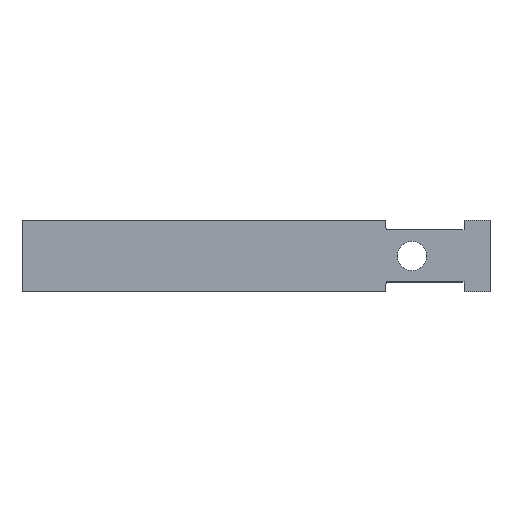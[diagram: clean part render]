
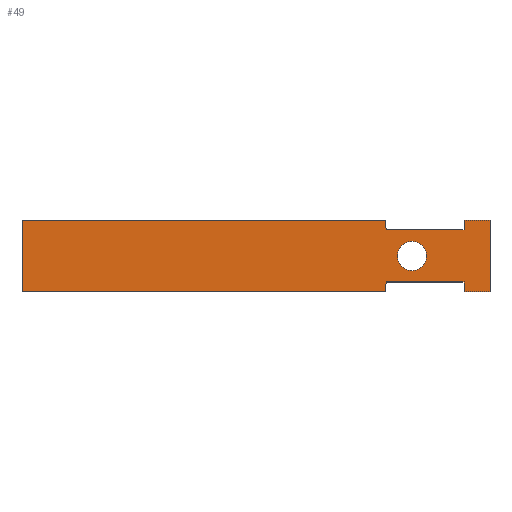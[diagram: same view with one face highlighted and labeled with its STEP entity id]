
A CAD part, top view. The second image highlights one B-rep face of the part: STEP entity #49.
In plain terms, the highlighted planar face has unit normal (0, 0, 1).
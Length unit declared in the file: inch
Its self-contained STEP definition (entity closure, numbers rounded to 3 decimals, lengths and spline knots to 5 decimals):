
#49=ADVANCED_FACE('',(#106,#107),#108,.T.);
#106=FACE_BOUND('',#177,.T.);
#107=FACE_OUTER_BOUND('',#178,.T.);
#108=PLANE('',#179);
#177=EDGE_LOOP('',(#268,#269,#270,#271));
#178=EDGE_LOOP('',(#272,#273,#274,#275,#276,#277,#278,#279,#280,#281,#282,#283));
#179=AXIS2_PLACEMENT_3D('',#284,#285,#286);
#268=ORIENTED_EDGE('',*,*,#419,.F.);
#269=ORIENTED_EDGE('',*,*,#420,.F.);
#270=ORIENTED_EDGE('',*,*,#421,.F.);
#271=ORIENTED_EDGE('',*,*,#404,.F.);
#272=ORIENTED_EDGE('',*,*,#422,.F.);
#273=ORIENTED_EDGE('',*,*,#423,.F.);
#274=ORIENTED_EDGE('',*,*,#414,.F.);
#275=ORIENTED_EDGE('',*,*,#424,.F.);
#276=ORIENTED_EDGE('',*,*,#425,.F.);
#277=ORIENTED_EDGE('',*,*,#426,.F.);
#278=ORIENTED_EDGE('',*,*,#427,.F.);
#279=ORIENTED_EDGE('',*,*,#409,.F.);
#280=ORIENTED_EDGE('',*,*,#428,.F.);
#281=ORIENTED_EDGE('',*,*,#429,.F.);
#282=ORIENTED_EDGE('',*,*,#430,.F.);
#283=ORIENTED_EDGE('',*,*,#431,.F.);
#284=CARTESIAN_POINT('',(4.61335,0.68751,0.105));
#285=DIRECTION('',(0.0,0.0,1.0));
#286=DIRECTION('',(1.0,0.0,0.0));
#404=EDGE_CURVE('',#471,#472,#473,.T.);
#409=EDGE_CURVE('',#480,#481,#482,.T.);
#414=EDGE_CURVE('',#489,#490,#491,.T.);
#419=EDGE_CURVE('',#498,#471,#499,.T.);
#420=EDGE_CURVE('',#500,#498,#501,.T.);
#421=EDGE_CURVE('',#472,#500,#502,.T.);
#422=EDGE_CURVE('',#503,#504,#505,.T.);
#423=EDGE_CURVE('',#490,#503,#506,.T.);
#424=EDGE_CURVE('',#507,#489,#508,.T.);
#425=EDGE_CURVE('',#509,#507,#510,.T.);
#426=EDGE_CURVE('',#511,#509,#512,.T.);
#427=EDGE_CURVE('',#481,#511,#513,.T.);
#428=EDGE_CURVE('',#514,#480,#515,.T.);
#429=EDGE_CURVE('',#516,#514,#517,.T.);
#430=EDGE_CURVE('',#518,#516,#519,.T.);
#431=EDGE_CURVE('',#504,#518,#520,.T.);
#471=VERTEX_POINT('',#570);
#472=VERTEX_POINT('',#571);
#473=B_SPLINE_CURVE_WITH_KNOTS('',3,(#572,#573,#574,#575),.UNSPECIFIED.,.F.,.F.,(4,4),(-1.0,-0.0),.UNSPECIFIED.);
#480=VERTEX_POINT('',#587);
#481=VERTEX_POINT('',#588);
#482=LINE('',#589,#590);
#489=VERTEX_POINT('',#600);
#490=VERTEX_POINT('',#601);
#491=LINE('',#602,#603);
#498=VERTEX_POINT('',#613);
#499=B_SPLINE_CURVE_WITH_KNOTS('',3,(#614,#615,#616,#617),.UNSPECIFIED.,.F.,.F.,(4,4),(-1.0,-0.0),.UNSPECIFIED.);
#500=VERTEX_POINT('',#618);
#501=B_SPLINE_CURVE_WITH_KNOTS('',3,(#619,#620,#621,#622),.UNSPECIFIED.,.F.,.F.,(4,4),(-1.0,-0.0),.UNSPECIFIED.);
#502=B_SPLINE_CURVE_WITH_KNOTS('',3,(#623,#624,#625,#626),.UNSPECIFIED.,.F.,.F.,(4,4),(-1.0,-0.0),.UNSPECIFIED.);
#503=VERTEX_POINT('',#627);
#504=VERTEX_POINT('',#628);
#505=LINE('',#629,#630);
#506=LINE('',#631,#632);
#507=VERTEX_POINT('',#633);
#508=LINE('',#634,#635);
#509=VERTEX_POINT('',#636);
#510=LINE('',#637,#638);
#511=VERTEX_POINT('',#639);
#512=LINE('',#640,#641);
#513=LINE('',#642,#643);
#514=VERTEX_POINT('',#644);
#515=LINE('',#645,#646);
#516=VERTEX_POINT('',#647);
#517=LINE('',#648,#649);
#518=VERTEX_POINT('',#650);
#519=LINE('',#651,#652);
#520=LINE('',#653,#654);
#570=CARTESIAN_POINT('',(7.21863,0.68751,0.105));
#571=CARTESIAN_POINT('',(7.49988,0.40626,0.105));
#572=CARTESIAN_POINT('',(7.21863,0.68751,0.105));
#573=CARTESIAN_POINT('',(7.21863,0.53219,0.105));
#574=CARTESIAN_POINT('',(7.34455,0.40626,0.105));
#575=CARTESIAN_POINT('',(7.49988,0.40626,0.105));
#587=CARTESIAN_POINT('',(8.50003,1.18751,0.105));
#588=CARTESIAN_POINT('',(8.5,1.37501,0.105));
#589=CARTESIAN_POINT('',(8.50003,1.18751,0.105));
#590=VECTOR('',#734,1.0);
#600=CARTESIAN_POINT('',(8.50003,0.1875,0.105));
#601=CARTESIAN_POINT('',(7.00003,0.1875,0.105));
#602=CARTESIAN_POINT('',(8.50003,0.1875,0.105));
#603=VECTOR('',#738,1.0);
#613=CARTESIAN_POINT('',(7.49988,0.96876,0.105));
#614=CARTESIAN_POINT('',(7.49988,0.96876,0.105));
#615=CARTESIAN_POINT('',(7.34455,0.96876,0.105));
#616=CARTESIAN_POINT('',(7.21863,0.84284,0.105));
#617=CARTESIAN_POINT('',(7.21863,0.68751,0.105));
#618=CARTESIAN_POINT('',(7.78113,0.68751,0.105));
#619=CARTESIAN_POINT('',(7.78113,0.68751,0.105));
#620=CARTESIAN_POINT('',(7.78113,0.84284,0.105));
#621=CARTESIAN_POINT('',(7.65521,0.96876,0.105));
#622=CARTESIAN_POINT('',(7.49988,0.96876,0.105));
#623=CARTESIAN_POINT('',(7.49988,0.40626,0.105));
#624=CARTESIAN_POINT('',(7.65521,0.40626,0.105));
#625=CARTESIAN_POINT('',(7.78113,0.53219,0.105));
#626=CARTESIAN_POINT('',(7.78113,0.68751,0.105));
#627=CARTESIAN_POINT('',(6.99988,0.0,0.105));
#628=CARTESIAN_POINT('',(0.0,0.0,0.105));
#629=CARTESIAN_POINT('',(6.99988,0.0,0.105));
#630=VECTOR('',#742,1.0);
#631=CARTESIAN_POINT('',(7.00003,0.1875,0.105));
#632=VECTOR('',#743,1.0);
#633=CARTESIAN_POINT('',(8.5,0.0,0.105));
#634=CARTESIAN_POINT('',(8.5,0.0,0.105));
#635=VECTOR('',#744,1.0);
#636=CARTESIAN_POINT('',(9.,0.0,0.105));
#637=CARTESIAN_POINT('',(9.,0.0,0.105));
#638=VECTOR('',#745,1.0);
#639=CARTESIAN_POINT('',(9.,1.37501,0.105));
#640=CARTESIAN_POINT('',(9.,1.37501,0.105));
#641=VECTOR('',#746,1.0);
#642=CARTESIAN_POINT('',(8.5,1.37501,0.105));
#643=VECTOR('',#747,1.0);
#644=CARTESIAN_POINT('',(7.00003,1.18751,0.105));
#645=CARTESIAN_POINT('',(7.00003,1.18751,0.105));
#646=VECTOR('',#748,1.0);
#647=CARTESIAN_POINT('',(6.99988,1.37501,0.105));
#648=CARTESIAN_POINT('',(6.99988,1.37501,0.105));
#649=VECTOR('',#749,1.0);
#650=CARTESIAN_POINT('',(0.0,1.37501,0.105));
#651=CARTESIAN_POINT('',(0.0,1.37501,0.105));
#652=VECTOR('',#750,1.0);
#653=CARTESIAN_POINT('',(0.0,0.0,0.105));
#654=VECTOR('',#751,1.0);
#734=DIRECTION('',(0.,1.,0.0));
#738=DIRECTION('',(-1.0,0.0,0.0));
#742=DIRECTION('',(-1.0,0.0,0.0));
#743=DIRECTION('',(-0.001,-1.,0.0));
#744=DIRECTION('',(0.,1.,0.0));
#745=DIRECTION('',(-1.0,0.0,0.0));
#746=DIRECTION('',(0.0,-1.0,0.0));
#747=DIRECTION('',(1.0,0.0,0.0));
#748=DIRECTION('',(1.0,0.0,0.0));
#749=DIRECTION('',(0.001,-1.,0.0));
#750=DIRECTION('',(1.0,0.0,0.0));
#751=DIRECTION('',(0.0,1.0,0.0));
